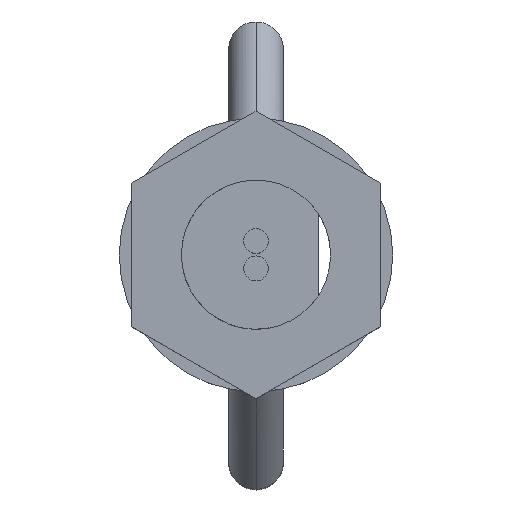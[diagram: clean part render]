
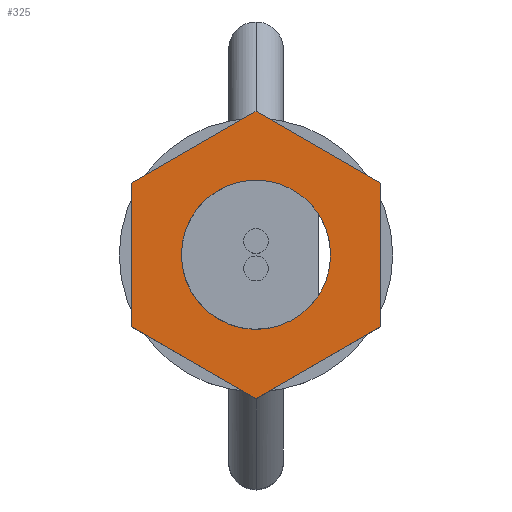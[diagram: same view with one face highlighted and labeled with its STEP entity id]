
A CAD part, top view. The second image highlights one B-rep face of the part: STEP entity #325.
In plain terms, the highlighted planar face has unit normal (0, 0, 1) as drawn and (-1, 0, 0) by its records, which use the part's own axes.
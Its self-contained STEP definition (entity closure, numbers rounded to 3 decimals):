
#160 = CARTESIAN_POINT ( 'NONE',  ( 3., 2.887, -5. ) ) ;
#161 = LINE ( 'NONE', #160, #163 ) ;
#162 = DIRECTION ( 'NONE',  ( 0., -1., 0. ) ) ;
#163 = VECTOR ( 'NONE', #162, 1000. ) ;
#251 = EDGE_CURVE ( 'NONE', #252, #253, #920, .T. ) ;
#252 = VERTEX_POINT ( 'NONE', #915 ) ;
#253 = VERTEX_POINT ( 'NONE', #914 ) ;
#323 = EDGE_LOOP ( 'NONE', ( #326, #330, #333, #336, #339, #342 ) ) ;
#325 = ADVANCED_FACE ( 'NONE', ( #1010, #1009 ), #1008, .F. ) ;
#326 = ORIENTED_EDGE ( 'NONE', *, *, #327, .T. ) ;
#327 = EDGE_CURVE ( 'NONE', #328, #329, #1003, .T. ) ;
#328 = VERTEX_POINT ( 'NONE', #999 ) ;
#329 = VERTEX_POINT ( 'NONE', #998 ) ;
#330 = ORIENTED_EDGE ( 'NONE', *, *, #331, .T. ) ;
#331 = EDGE_CURVE ( 'NONE', #329, #332, #997, .T. ) ;
#332 = VERTEX_POINT ( 'NONE', #993 ) ;
#333 = ORIENTED_EDGE ( 'NONE', *, *, #335, .T. ) ;
#334 = VERTEX_POINT ( 'NONE', #992 ) ;
#335 = EDGE_CURVE ( 'NONE', #332, #334, #161, .T. ) ;
#336 = ORIENTED_EDGE ( 'NONE', *, *, #337, .T. ) ;
#337 = EDGE_CURVE ( 'NONE', #334, #338, #1055, .T. ) ;
#338 = VERTEX_POINT ( 'NONE', #1051 ) ;
#339 = ORIENTED_EDGE ( 'NONE', *, *, #340, .T. ) ;
#340 = EDGE_CURVE ( 'NONE', #338, #341, #1050, .T. ) ;
#341 = VERTEX_POINT ( 'NONE', #1046 ) ;
#342 = ORIENTED_EDGE ( 'NONE', *, *, #343, .T. ) ;
#343 = EDGE_CURVE ( 'NONE', #341, #328, #1045, .T. ) ;
#344 = EDGE_LOOP ( 'NONE', ( #345, #346 ) ) ;
#345 = ORIENTED_EDGE ( 'NONE', *, *, #251, .F. ) ;
#346 = ORIENTED_EDGE ( 'NONE', *, *, #347, .F. ) ;
#347 = EDGE_CURVE ( 'NONE', #253, #252, #1041, .T. ) ;
#914 = CARTESIAN_POINT ( 'NONE',  ( 3., -3., 0. ) ) ;
#915 = CARTESIAN_POINT ( 'NONE',  ( 3., 3., 0. ) ) ;
#916 = DIRECTION ( 'NONE',  ( 0., -1., 0. ) ) ;
#917 = DIRECTION ( 'NONE',  ( -1., 0., 0. ) ) ;
#918 = CARTESIAN_POINT ( 'NONE',  ( 3., 0., 0. ) ) ;
#919 = AXIS2_PLACEMENT_3D ( 'NONE', #918, #917, #916 ) ;
#920 = CIRCLE ( 'NONE', #919, 3. ) ;
#992 = CARTESIAN_POINT ( 'NONE',  ( 3., -2.887, -5. ) ) ;
#993 = CARTESIAN_POINT ( 'NONE',  ( 3., 2.887, -5. ) ) ;
#994 = DIRECTION ( 'NONE',  ( 0., -0.5, -0.866 ) ) ;
#995 = VECTOR ( 'NONE', #994, 1000. ) ;
#996 = CARTESIAN_POINT ( 'NONE',  ( 3., 5.774, 0. ) ) ;
#997 = LINE ( 'NONE', #996, #995 ) ;
#998 = CARTESIAN_POINT ( 'NONE',  ( 3., 5.774, 0. ) ) ;
#999 = CARTESIAN_POINT ( 'NONE',  ( 3., 2.887, 5. ) ) ;
#1000 = DIRECTION ( 'NONE',  ( 0., 0.5, -0.866 ) ) ;
#1001 = VECTOR ( 'NONE', #1000, 1000. ) ;
#1002 = CARTESIAN_POINT ( 'NONE',  ( 3., 2.887, 5. ) ) ;
#1003 = LINE ( 'NONE', #1002, #1001 ) ;
#1004 = DIRECTION ( 'NONE',  ( 0., 1., 0. ) ) ;
#1005 = DIRECTION ( 'NONE',  ( 1., 0., 0. ) ) ;
#1006 = CARTESIAN_POINT ( 'NONE',  ( 3., 0., 10. ) ) ;
#1007 = AXIS2_PLACEMENT_3D ( 'NONE', #1006, #1005, #1004 ) ;
#1008 = PLANE ( 'NONE',  #1007 ) ;
#1009 = FACE_BOUND ( 'NONE', #344, .T. ) ;
#1010 = FACE_OUTER_BOUND ( 'NONE', #323, .T. ) ;
#1037 = DIRECTION ( 'NONE',  ( 0., -1., 0. ) ) ;
#1038 = DIRECTION ( 'NONE',  ( -1., 0., 0. ) ) ;
#1039 = CARTESIAN_POINT ( 'NONE',  ( 3., 0., 0. ) ) ;
#1040 = AXIS2_PLACEMENT_3D ( 'NONE', #1039, #1038, #1037 ) ;
#1041 = CIRCLE ( 'NONE', #1040, 3. ) ;
#1042 = DIRECTION ( 'NONE',  ( 0., 1., 0. ) ) ;
#1043 = VECTOR ( 'NONE', #1042, 1000. ) ;
#1044 = CARTESIAN_POINT ( 'NONE',  ( 3., -2.887, 5. ) ) ;
#1045 = LINE ( 'NONE', #1044, #1043 ) ;
#1046 = CARTESIAN_POINT ( 'NONE',  ( 3., -2.887, 5. ) ) ;
#1047 = DIRECTION ( 'NONE',  ( 0., 0.5, 0.866 ) ) ;
#1048 = VECTOR ( 'NONE', #1047, 1000. ) ;
#1049 = CARTESIAN_POINT ( 'NONE',  ( 3., -5.774, 0. ) ) ;
#1050 = LINE ( 'NONE', #1049, #1048 ) ;
#1051 = CARTESIAN_POINT ( 'NONE',  ( 3., -5.774, 0. ) ) ;
#1052 = DIRECTION ( 'NONE',  ( 0., -0.5, 0.866 ) ) ;
#1053 = VECTOR ( 'NONE', #1052, 1000. ) ;
#1054 = CARTESIAN_POINT ( 'NONE',  ( 3., -2.887, -5. ) ) ;
#1055 = LINE ( 'NONE', #1054, #1053 ) ;
